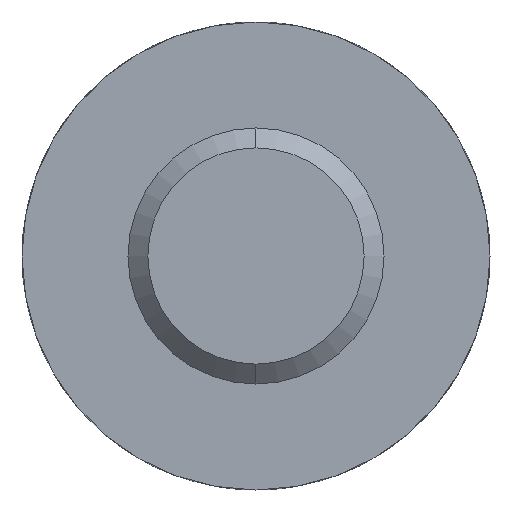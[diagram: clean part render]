
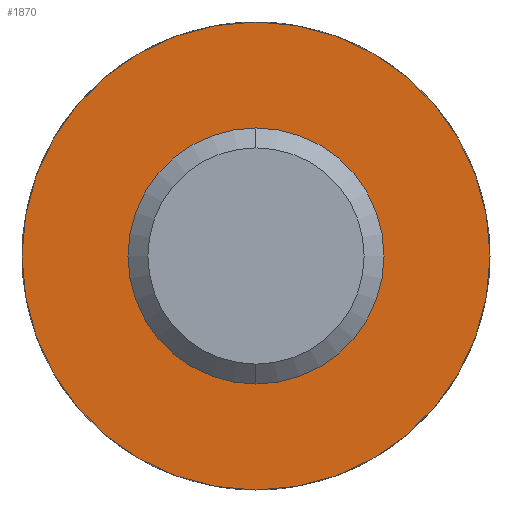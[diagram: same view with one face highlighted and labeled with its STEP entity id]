
A CAD part, left-side view. The second image highlights one B-rep face of the part: STEP entity #1870.
In plain terms, the highlighted planar face has unit normal (-1, 0, 0).
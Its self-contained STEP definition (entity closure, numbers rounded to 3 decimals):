
#77 = CARTESIAN_POINT ( 'NONE',  ( 3.155, 0., 0. ) ) ;
#122 = DIRECTION ( 'NONE',  ( -1., 0., 0. ) ) ;
#140 = CARTESIAN_POINT ( 'NONE',  ( 3.155, 0., -2.65 ) ) ;
#174 = AXIS2_PLACEMENT_3D ( 'NONE', #3464, #1658, #3752 ) ;
#286 = ORIENTED_EDGE ( 'NONE', *, *, #1192, .F. ) ;
#438 = CIRCLE ( 'NONE', #174, 2.65 ) ;
#455 = DIRECTION ( 'NONE',  ( 0., 0., -1. ) ) ;
#519 = CARTESIAN_POINT ( 'NONE',  ( 3.155, 0., 2.65 ) ) ;
#529 = VERTEX_POINT ( 'NONE', #519 ) ;
#567 = VERTEX_POINT ( 'NONE', #140 ) ;
#623 = AXIS2_PLACEMENT_3D ( 'NONE', #3429, #1625, #3720 ) ;
#658 = CARTESIAN_POINT ( 'NONE',  ( 3.155, 2.65, 0. ) ) ;
#749 = PLANE ( 'NONE',  #3698 ) ;
#802 = ORIENTED_EDGE ( 'NONE', *, *, #2744, .F. ) ;
#838 = CARTESIAN_POINT ( 'NONE',  ( 3.155, 0., 1.25 ) ) ;
#972 = AXIS2_PLACEMENT_3D ( 'NONE', #1224, #1214, #1202 ) ;
#981 = ORIENTED_EDGE ( 'NONE', *, *, #3501, .T. ) ;
#1049 = DIRECTION ( 'NONE',  ( 1., 0., 0. ) ) ;
#1077 = ORIENTED_EDGE ( 'NONE', *, *, #2043, .T. ) ;
#1122 = EDGE_LOOP ( 'NONE', ( #981, #1077 ) ) ;
#1192 = EDGE_CURVE ( 'NONE', #2874, #1826, #3527, .T. ) ;
#1202 = DIRECTION ( 'NONE',  ( 0., 0., 1. ) ) ;
#1214 = DIRECTION ( 'NONE',  ( -1., 0., 0. ) ) ;
#1224 = CARTESIAN_POINT ( 'NONE',  ( 3.155, 0., 0. ) ) ;
#1267 = EDGE_LOOP ( 'NONE', ( #286, #802 ) ) ;
#1625 = DIRECTION ( 'NONE',  ( -1., 0., 0. ) ) ;
#1658 = DIRECTION ( 'NONE',  ( -1., 0., 0. ) ) ;
#1826 = VERTEX_POINT ( 'NONE', #2059 ) ;
#1870 = ADVANCED_FACE ( 'NONE', ( #2979, #3076 ), #749, .F. ) ;
#2043 = EDGE_CURVE ( 'NONE', #567, #529, #3023, .T. ) ;
#2059 = CARTESIAN_POINT ( 'NONE',  ( 3.155, 0., -1.25 ) ) ;
#2744 = EDGE_CURVE ( 'NONE', #1826, #2874, #3519, .T. ) ;
#2874 = VERTEX_POINT ( 'NONE', #838 ) ;
#2979 = FACE_BOUND ( 'NONE', #1267, .T. ) ;
#3023 = CIRCLE ( 'NONE', #972, 2.65 ) ;
#3076 = FACE_OUTER_BOUND ( 'NONE', #1122, .T. ) ;
#3429 = CARTESIAN_POINT ( 'NONE',  ( 3.155, 0., 0. ) ) ;
#3464 = CARTESIAN_POINT ( 'NONE',  ( 3.155, 0., 0. ) ) ;
#3474 = AXIS2_PLACEMENT_3D ( 'NONE', #77, #122, #3680 ) ;
#3501 = EDGE_CURVE ( 'NONE', #529, #567, #438, .T. ) ;
#3519 = CIRCLE ( 'NONE', #623, 1.25 ) ;
#3527 = CIRCLE ( 'NONE', #3474, 1.25 ) ;
#3680 = DIRECTION ( 'NONE',  ( 0., 0., 1. ) ) ;
#3698 = AXIS2_PLACEMENT_3D ( 'NONE', #658, #1049, #455 ) ;
#3720 = DIRECTION ( 'NONE',  ( 0., 0., 1. ) ) ;
#3752 = DIRECTION ( 'NONE',  ( 0., 0., 1. ) ) ;
